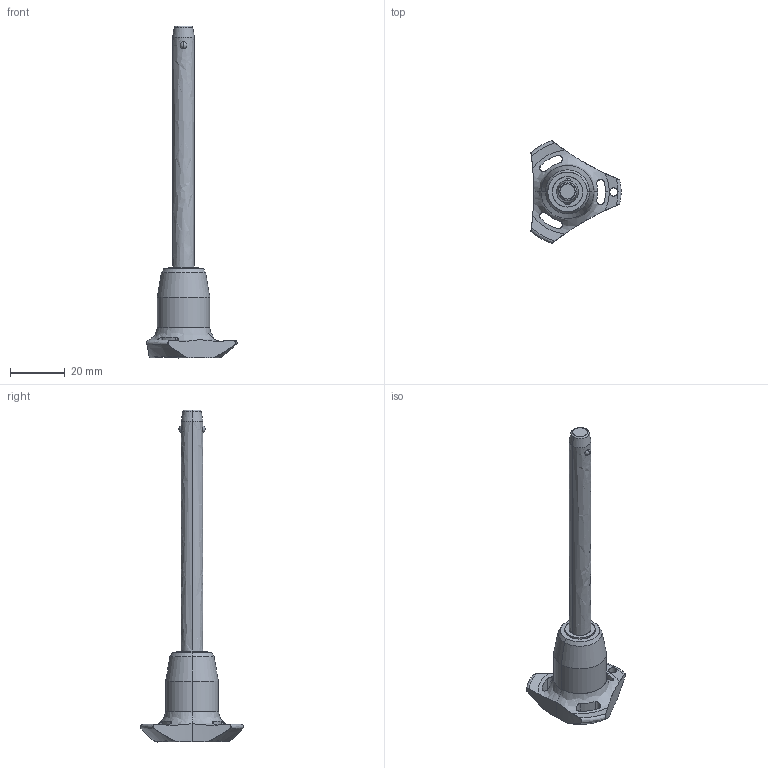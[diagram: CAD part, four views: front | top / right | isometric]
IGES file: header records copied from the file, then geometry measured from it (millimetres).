
Start section: SolidWorks IGES file using analytic representation for surfaces
Global section: file name: C:\Users\ianosborn\Desktop\QR1724_v2\QR1724_v2_20251112_IGES\QR1724.M08-080-S.igs; native system: SolidWorks 2019; preprocessor: SolidWorks 2019; author: IanOsborn; date: 251112.125111; units: millimetre
Bounding box: 33 x 37.51 x 121.5 mm (x, y, z)
Surface area: 6065.2 mm2 (no closed solid volume)
Topology: 0 solids, 0 shells, 65 faces, 1274 edges, 1270 vertices
Faces by surface type: revolution 50, bspline 15
